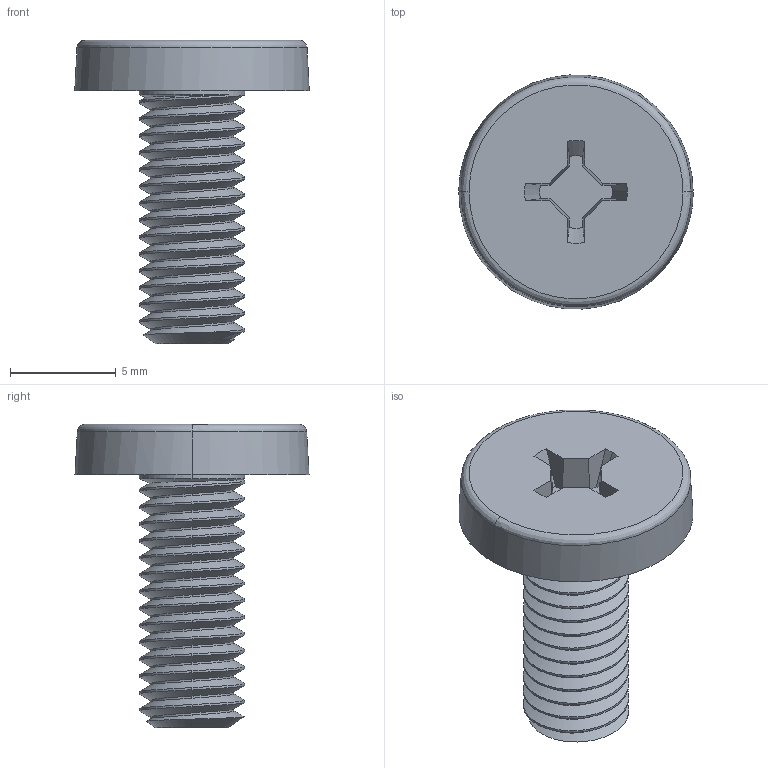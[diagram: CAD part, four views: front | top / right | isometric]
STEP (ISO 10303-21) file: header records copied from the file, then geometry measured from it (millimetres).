
FILE_DESCRIPTION(/* description */ (''),/* implementation_level */ '2;1');
FILE_NAME(/* name */ 'PANCAK~1',/* time_stamp */ '2020-01-25T13:38:51+01:00',/* author */ (''),/* organization */ (''),/* preprocessor_version */ 'ST-DEVELOPER v16.5',/* originating_system */ '',/* authorisation */ '');
FILE_SCHEMA (('AUTOMOTIVE_DESIGN'));
Length unit declared in the file: millimetre
Products named in the file (1): Document
Bounding box: 11.11 x 11.09 x 14.38 mm (x, y, z)
Volume: 403 mm3; surface area: 574 mm2
Topology: 1 solids, 1 shells, 92 faces, 261 edges, 173 vertices
Faces by surface type: bspline 76, plane 16
Entity records: 5428 total; most frequent: CARTESIAN_POINT 3996, ORIENTED_EDGE 522, EDGE_CURVE 261, VERTEX_POINT 173, B_SPLINE_CURVE_WITH_KNOTS 114, EDGE_LOOP 94, ADVANCED_FACE 92, FACE_OUTER_BOUND 92
